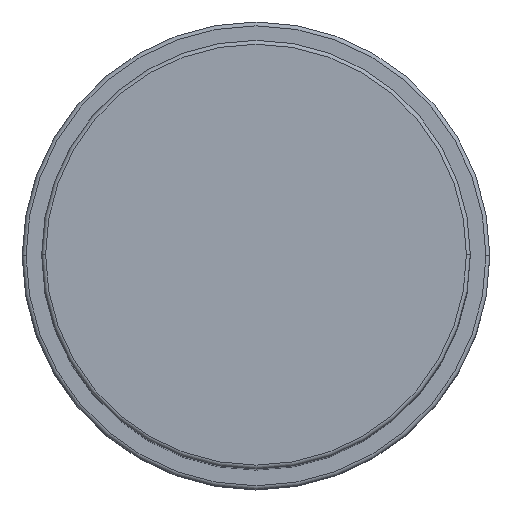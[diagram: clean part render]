
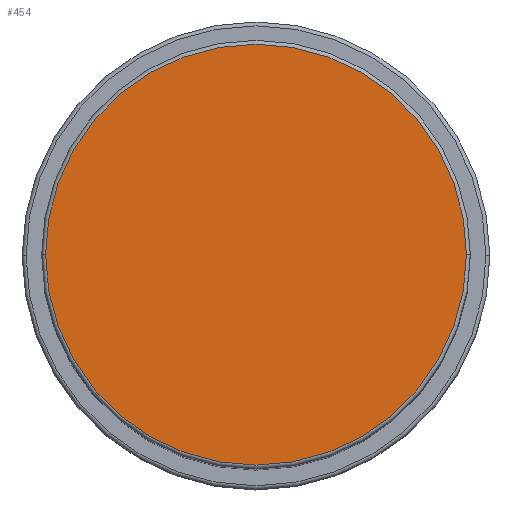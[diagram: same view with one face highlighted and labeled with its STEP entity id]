
A CAD part, top view. The second image highlights one B-rep face of the part: STEP entity #454.
In plain terms, the highlighted planar face has unit normal (0, 0, 1).
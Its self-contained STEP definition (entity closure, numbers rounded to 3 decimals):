
#211 = DIRECTION ( 'NONE',  ( 1., 0., 0. ) ) ;
#277 = DIRECTION ( 'NONE',  ( 1., 0., 0. ) ) ;
#309 = CARTESIAN_POINT ( 'NONE',  ( 0., 0., 111. ) ) ;
#311 = EDGE_CURVE ( 'NONE', #1602, #1029, #665, .T. ) ;
#373 = ORIENTED_EDGE ( 'NONE', *, *, #311, .T. ) ;
#383 = AXIS2_PLACEMENT_3D ( 'NONE', #1624, #744, #211 ) ;
#454 = ADVANCED_FACE ( 'NONE', ( #1393 ), #1053, .T. ) ;
#620 = EDGE_CURVE ( 'NONE', #1029, #1602, #1251, .T. ) ;
#665 = CIRCLE ( 'NONE', #383, 27. ) ;
#698 = DIRECTION ( 'NONE',  ( 1., 0., 0. ) ) ;
#744 = DIRECTION ( 'NONE',  ( 0., 0., 1. ) ) ;
#796 = DIRECTION ( 'NONE',  ( 0., 0., 1. ) ) ;
#831 = CARTESIAN_POINT ( 'NONE',  ( 27., 0., 111. ) ) ;
#918 = CARTESIAN_POINT ( 'NONE',  ( -27., 0., 111. ) ) ;
#1029 = VERTEX_POINT ( 'NONE', #918 ) ;
#1053 = PLANE ( 'NONE',  #1517 ) ;
#1092 = DIRECTION ( 'NONE',  ( 0., 0., 1. ) ) ;
#1206 = ORIENTED_EDGE ( 'NONE', *, *, #620, .T. ) ;
#1251 = CIRCLE ( 'NONE', #1325, 27. ) ;
#1325 = AXIS2_PLACEMENT_3D ( 'NONE', #309, #1092, #698 ) ;
#1393 = FACE_OUTER_BOUND ( 'NONE', #1520, .T. ) ;
#1517 = AXIS2_PLACEMENT_3D ( 'NONE', #1549, #796, #277 ) ;
#1520 = EDGE_LOOP ( 'NONE', ( #373, #1206 ) ) ;
#1549 = CARTESIAN_POINT ( 'NONE',  ( 0., 0., 111. ) ) ;
#1602 = VERTEX_POINT ( 'NONE', #831 ) ;
#1624 = CARTESIAN_POINT ( 'NONE',  ( 0., 0., 111. ) ) ;
